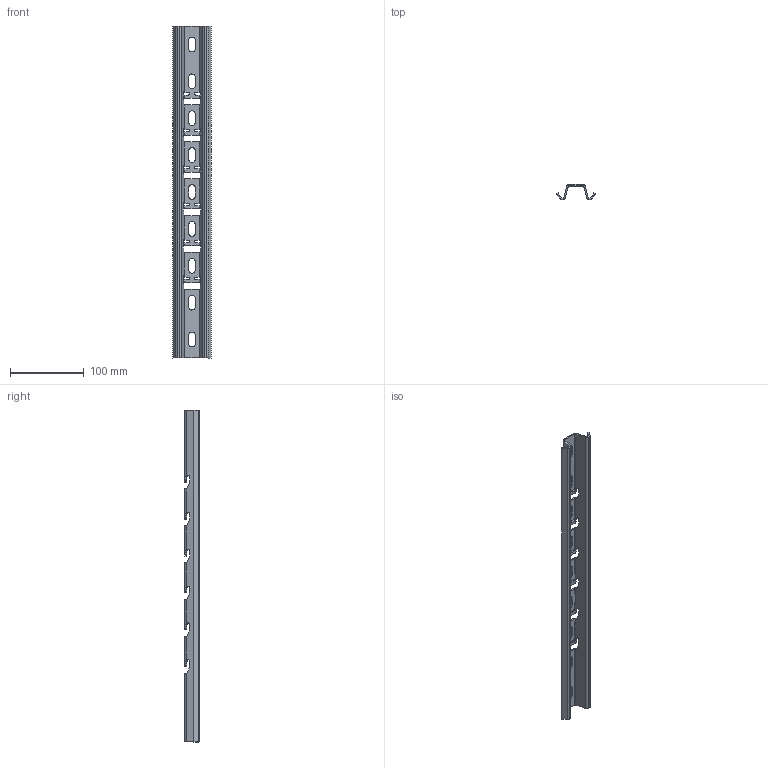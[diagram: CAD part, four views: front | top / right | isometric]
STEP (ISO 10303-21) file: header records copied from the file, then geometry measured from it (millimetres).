
FILE_DESCRIPTION (( 'STEP AP203' ), '1' );
FILE_NAME ('C-SVO 300.step', '2023-07-28T15:16:24', ( '' ), ( '' ), 'SwSTEP 2.0', 'SolidWorks 2022', '' );
FILE_SCHEMA (( 'CONFIG_CONTROL_DESIGN' ));
Length unit declared in the file: millimetre
Products named in the file (1): C-SVO 300
Bounding box: 52 x 20 x 450 mm (x, y, z)
Volume: 67440.6 mm3; surface area: 72220.1 mm2
Topology: 1 solids, 1 shells, 363 faces, 927 edges, 554 vertices
Faces by surface type: plane 228, cylinder 123, bspline 12
Entity records: 11228 total; most frequent: CARTESIAN_POINT 2337, ORIENTED_EDGE 1854, DIRECTION 1829, EDGE_CURVE 927, LINE 633, VECTOR 633, AXIS2_PLACEMENT_3D 598, VERTEX_POINT 554
